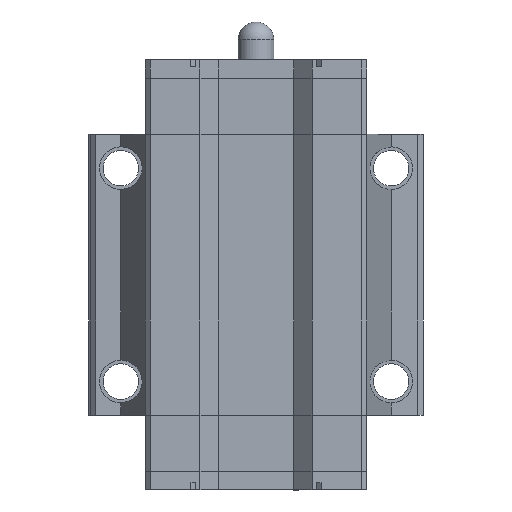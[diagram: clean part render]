
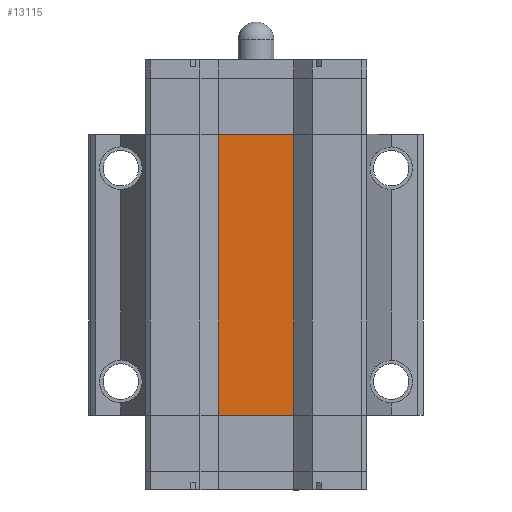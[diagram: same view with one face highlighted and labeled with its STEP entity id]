
A CAD part, front view. The second image highlights one B-rep face of the part: STEP entity #13115.
In plain terms, the highlighted planar face has unit normal (0, -1, 0).
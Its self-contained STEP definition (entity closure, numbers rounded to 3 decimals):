
#1237 = EDGE_LOOP ( 'NONE', ( #11690, #11548, #11658, #11712 ) ) ;
#1626 = AXIS2_PLACEMENT_3D ( 'NONE', #6418, #6427, #6428 ) ;
#2637 = FACE_OUTER_BOUND ( 'NONE', #1237, .T. ) ;
#3297 = LINE ( 'NONE', #5739, #3306 ) ;
#3299 = LINE ( 'NONE', #5754, #3302 ) ;
#3302 = VECTOR ( 'NONE', #5755, 1000. ) ;
#3306 = VECTOR ( 'NONE', #5759, 1000. ) ;
#3369 = LINE ( 'NONE', #5836, #3372 ) ;
#3372 = VECTOR ( 'NONE', #5837, 1000. ) ;
#3401 = LINE ( 'NONE', #4351, #3410 ) ;
#3410 = VECTOR ( 'NONE', #4365, 1000. ) ;
#4351 = CARTESIAN_POINT ( 'NONE',  ( 23.5, 10.6, 19.75 ) ) ;
#4365 = DIRECTION ( 'NONE',  ( 1., 0., 0. ) ) ;
#5739 = CARTESIAN_POINT ( 'NONE',  ( -5.274, 10.6, -27.625 ) ) ;
#5754 = CARTESIAN_POINT ( 'NONE',  ( 5.274, 10.6, -27.625 ) ) ;
#5755 = DIRECTION ( 'NONE',  ( 0., 0., -1. ) ) ;
#5759 = DIRECTION ( 'NONE',  ( 0., 0., 1. ) ) ;
#5836 = CARTESIAN_POINT ( 'NONE',  ( 5.274, 10.6, -19.75 ) ) ;
#5837 = DIRECTION ( 'NONE',  ( -1., 0., 0. ) ) ;
#6058 = CARTESIAN_POINT ( 'NONE',  ( -5.274, 10.6, 19.75 ) ) ;
#6061 = CARTESIAN_POINT ( 'NONE',  ( -5.274, 10.6, -19.75 ) ) ;
#6066 = CARTESIAN_POINT ( 'NONE',  ( 5.274, 10.6, -19.75 ) ) ;
#6069 = CARTESIAN_POINT ( 'NONE',  ( 5.274, 10.6, 19.75 ) ) ;
#6418 = CARTESIAN_POINT ( 'NONE',  ( 5.274, 10.6, -27.625 ) ) ;
#6425 = PLANE ( 'NONE',  #1626 ) ;
#6427 = DIRECTION ( 'NONE',  ( 0., 1., 0. ) ) ;
#6428 = DIRECTION ( 'NONE',  ( 0., 0., 1. ) ) ;
#8934 = EDGE_CURVE ( 'NONE', #12185, #12179, #3299, .T. ) ;
#8936 = EDGE_CURVE ( 'NONE', #12169, #12163, #3297, .T. ) ;
#8972 = EDGE_CURVE ( 'NONE', #12179, #12169, #3369, .T. ) ;
#8995 = EDGE_CURVE ( 'NONE', #12163, #12185, #3401, .T. ) ;
#11548 = ORIENTED_EDGE ( 'NONE', *, *, #8934, .F. ) ;
#11658 = ORIENTED_EDGE ( 'NONE', *, *, #8995, .F. ) ;
#11690 = ORIENTED_EDGE ( 'NONE', *, *, #8972, .F. ) ;
#11712 = ORIENTED_EDGE ( 'NONE', *, *, #8936, .F. ) ;
#12163 = VERTEX_POINT ( 'NONE', #6058 ) ;
#12169 = VERTEX_POINT ( 'NONE', #6061 ) ;
#12179 = VERTEX_POINT ( 'NONE', #6066 ) ;
#12185 = VERTEX_POINT ( 'NONE', #6069 ) ;
#13115 = ADVANCED_FACE ( 'NONE', ( #2637 ), #6425, .F. ) ;
